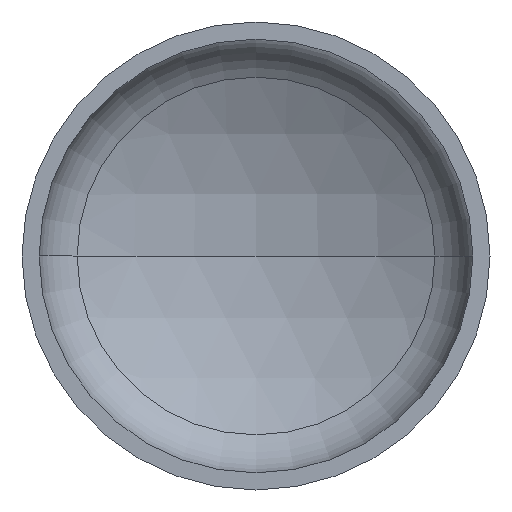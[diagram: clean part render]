
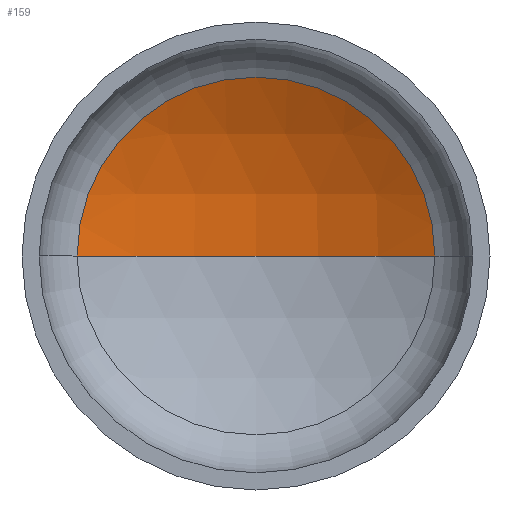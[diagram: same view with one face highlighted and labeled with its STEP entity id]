
A CAD part, front view. The second image highlights one B-rep face of the part: STEP entity #159.
In plain terms, the highlighted spherical face has radius 720 mm.
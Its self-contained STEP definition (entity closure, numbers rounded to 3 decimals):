
#5 = CARTESIAN_POINT ( 'NONE',  ( 0., 223.002, 0. ) ) ;
#12 = CARTESIAN_POINT ( 'NONE',  ( 0., -409.579, 0. ) ) ;
#13 = EDGE_LOOP ( 'NONE', ( #91, #22, #59 ) ) ;
#16 = VERTEX_POINT ( 'NONE', #259 ) ;
#17 = AXIS2_PLACEMENT_3D ( 'NONE', #217, #267, #285 ) ;
#22 = ORIENTED_EDGE ( 'NONE', *, *, #87, .T. ) ;
#24 = AXIS2_PLACEMENT_3D ( 'NONE', #266, #65, #196 ) ;
#26 = AXIS2_PLACEMENT_3D ( 'NONE', #12, #190, #146 ) ;
#29 = AXIS2_PLACEMENT_3D ( 'NONE', #5, #153, #218 ) ;
#41 = VERTEX_POINT ( 'NONE', #246 ) ;
#59 = ORIENTED_EDGE ( 'NONE', *, *, #86, .T. ) ;
#65 = DIRECTION ( 'NONE',  ( 0., 0., 1. ) ) ;
#86 = EDGE_CURVE ( 'NONE', #41, #135, #356, .T. ) ;
#87 = EDGE_CURVE ( 'NONE', #16, #41, #410, .T. ) ;
#88 = EDGE_CURVE ( 'NONE', #16, #135, #230, .T. ) ;
#91 = ORIENTED_EDGE ( 'NONE', *, *, #88, .F. ) ;
#135 = VERTEX_POINT ( 'NONE', #263 ) ;
#146 = DIRECTION ( 'NONE',  ( -1., 0., 0. ) ) ;
#153 = DIRECTION ( 'NONE',  ( 0., -1., 0. ) ) ;
#159 = ADVANCED_FACE ( 'NONE', ( #277 ), #349, .F. ) ;
#190 = DIRECTION ( 'NONE',  ( 0., 0., -1. ) ) ;
#196 = DIRECTION ( 'NONE',  ( 1., 0., 0. ) ) ;
#217 = CARTESIAN_POINT ( 'NONE',  ( 0., -409.579, 0. ) ) ;
#218 = DIRECTION ( 'NONE',  ( 1., 0., 0. ) ) ;
#230 = CIRCLE ( 'NONE', #24, 720. ) ;
#246 = CARTESIAN_POINT ( 'NONE',  ( 343.862, 223.002, 0. ) ) ;
#259 = CARTESIAN_POINT ( 'NONE',  ( 0., 310.421, 0. ) ) ;
#263 = CARTESIAN_POINT ( 'NONE',  ( -343.862, 223.002, 0. ) ) ;
#266 = CARTESIAN_POINT ( 'NONE',  ( 0., -409.579, 0. ) ) ;
#267 = DIRECTION ( 'NONE',  ( 0., 0., -1. ) ) ;
#277 = FACE_OUTER_BOUND ( 'NONE', #13, .T. ) ;
#285 = DIRECTION ( 'NONE',  ( -1., 0., 0. ) ) ;
#349 = SPHERICAL_SURFACE ( 'NONE', #17, 720. ) ;
#356 = CIRCLE ( 'NONE', #29, 343.862 ) ;
#410 = CIRCLE ( 'NONE', #26, 720. ) ;
